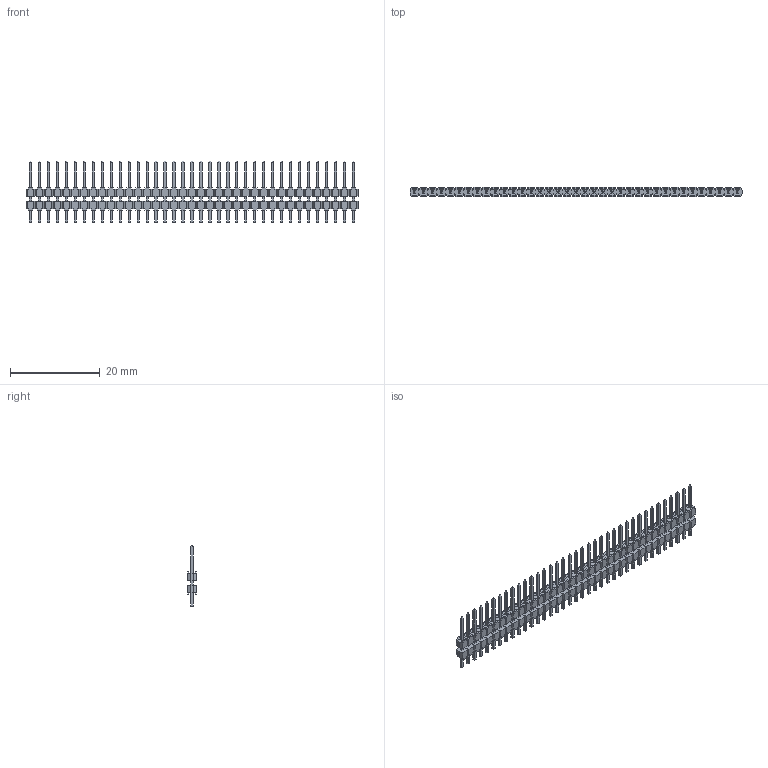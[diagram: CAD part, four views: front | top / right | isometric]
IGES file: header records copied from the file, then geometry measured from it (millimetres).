
Global section: file name: N:\GOLF_VI_2mm_UGII\9514XX_906XX06_AR\951437-9061106-AR.igs; native system: NX V3.0; preprocessor: UGS NX IGES V4.0; date: 20070314.144801; units: millimetre
Bounding box: 74 x 2 x 13.8 mm (x, y, z)
Surface area: 2134.5 mm2 (no closed solid volume)
Topology: 0 solids, 0 shells, 1858 faces, 10089 edges, 10089 vertices
Faces by surface type: bspline 1858
